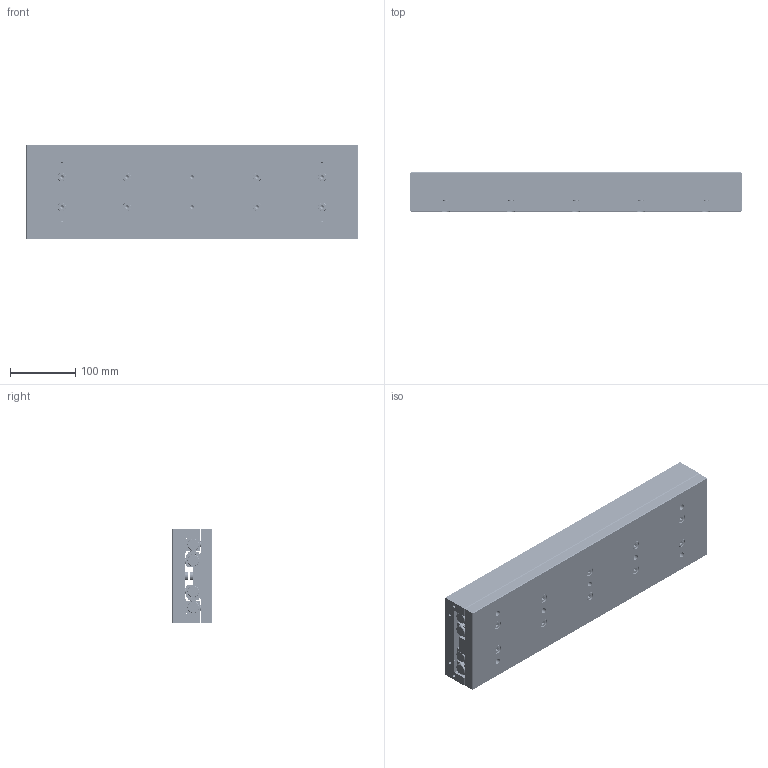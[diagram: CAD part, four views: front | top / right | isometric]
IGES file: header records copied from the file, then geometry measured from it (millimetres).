
Start section: SolidWorks IGES file using analytic representation for surfaces
Global section: file name: C:\Documents and Settings\IanO.IANOHOME\My Documents\Wix and Auto CAD Work\CAD Models\Parametric Models\Auto Models\L1020\L1020_IGES\L1020.145-510.igs; native system: SolidWorks 2009; preprocessor: SolidWorks 2009; author: IanO; date: 110922.163224; units: millimetre
Bounding box: 510 x 60 x 145 mm (x, y, z)
Surface area: 690955.1 mm2 (no closed solid volume)
Topology: 0 solids, 0 shells, 1810 faces, 26628 edges, 26578 vertices
Faces by surface type: bspline 1152, revolution 658
